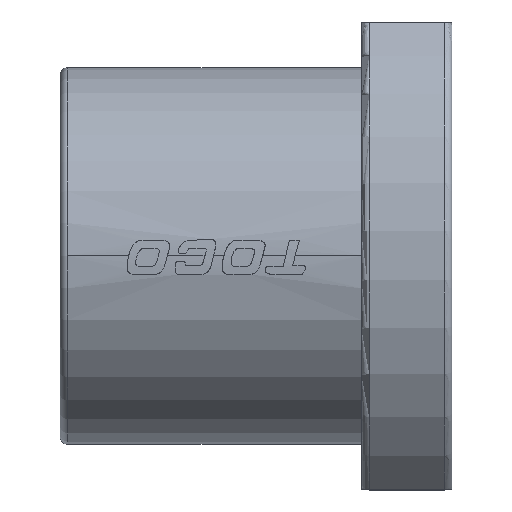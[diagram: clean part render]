
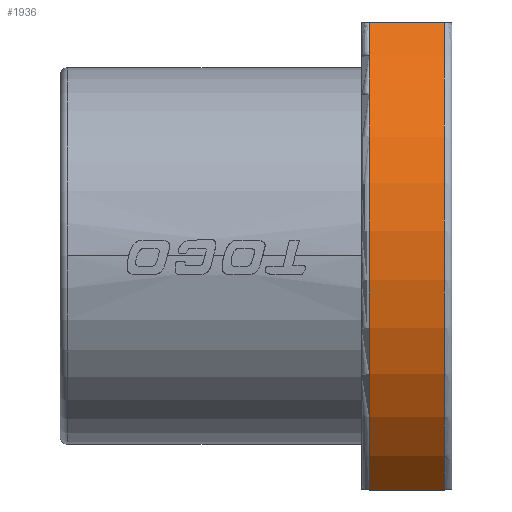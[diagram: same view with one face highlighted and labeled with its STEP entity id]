
A CAD part, top view. The second image highlights one B-rep face of the part: STEP entity #1936.
In plain terms, the highlighted cylindrical face has radius 40 mm (diameter 80 mm), a partial arc.
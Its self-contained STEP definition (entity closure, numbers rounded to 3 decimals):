
#51 = ORIENTED_EDGE ( 'NONE', *, *, #9225, .F. ) ;
#725 = CARTESIAN_POINT ( 'NONE',  ( -74., 0., 0. ) ) ;
#1712 = CARTESIAN_POINT ( 'NONE',  ( -16., 31., 25.278 ) ) ;
#1720 = DIRECTION ( 'NONE',  ( 0., 1., 0. ) ) ;
#1793 = AXIS2_PLACEMENT_3D ( 'NONE', #2526, #9039, #1720 ) ;
#1936 = ADVANCED_FACE ( 'NONE', ( #5590 ), #8851, .T. ) ;
#1962 = CIRCLE ( 'NONE', #2987, 40. ) ;
#2038 = DIRECTION ( 'NONE',  ( -1., 0., 0. ) ) ;
#2395 = CARTESIAN_POINT ( 'NONE',  ( -94., 31., 25.278 ) ) ;
#2526 = CARTESIAN_POINT ( 'NONE',  ( -16., 0., 0. ) ) ;
#2608 = VECTOR ( 'NONE', #6457, 1000. ) ;
#2842 = CARTESIAN_POINT ( 'NONE',  ( -26., 0., 0. ) ) ;
#2892 = DIRECTION ( 'NONE',  ( 0., 1., 0. ) ) ;
#2987 = AXIS2_PLACEMENT_3D ( 'NONE', #2842, #2038, #2892 ) ;
#3198 = CARTESIAN_POINT ( 'NONE',  ( -94., -31., 25.278 ) ) ;
#3527 = VERTEX_POINT ( 'NONE', #10552 ) ;
#3999 = DIRECTION ( 'NONE',  ( 0., 0., -1. ) ) ;
#4560 = VERTEX_POINT ( 'NONE', #9137 ) ;
#5590 = FACE_OUTER_BOUND ( 'NONE', #7947, .T. ) ;
#5647 = DIRECTION ( 'NONE',  ( 1., 0., 0. ) ) ;
#5674 = VECTOR ( 'NONE', #5647, 1000. ) ;
#6128 = CARTESIAN_POINT ( 'NONE',  ( -26., 31., 25.278 ) ) ;
#6252 = ORIENTED_EDGE ( 'NONE', *, *, #6492, .F. ) ;
#6457 = DIRECTION ( 'NONE',  ( -1., 0., 0. ) ) ;
#6492 = EDGE_CURVE ( 'NONE', #3527, #4560, #7258, .T. ) ;
#6494 = EDGE_CURVE ( 'NONE', #10582, #7773, #9711, .T. ) ;
#6944 = ORIENTED_EDGE ( 'NONE', *, *, #6494, .F. ) ;
#7258 = LINE ( 'NONE', #3198, #2608 ) ;
#7773 = VERTEX_POINT ( 'NONE', #1712 ) ;
#7892 = ORIENTED_EDGE ( 'NONE', *, *, #7932, .F. ) ;
#7932 = EDGE_CURVE ( 'NONE', #4560, #10582, #1962, .T. ) ;
#7947 = EDGE_LOOP ( 'NONE', ( #51, #6944, #7892, #6252 ) ) ;
#8851 = CYLINDRICAL_SURFACE ( 'NONE', #10449, 40. ) ;
#9039 = DIRECTION ( 'NONE',  ( 1., 0., 0. ) ) ;
#9137 = CARTESIAN_POINT ( 'NONE',  ( -26., -31., 25.278 ) ) ;
#9225 = EDGE_CURVE ( 'NONE', #7773, #3527, #10152, .T. ) ;
#9711 = LINE ( 'NONE', #2395, #5674 ) ;
#10152 = CIRCLE ( 'NONE', #1793, 40. ) ;
#10360 = DIRECTION ( 'NONE',  ( 1., 0., 0. ) ) ;
#10449 = AXIS2_PLACEMENT_3D ( 'NONE', #725, #10360, #3999 ) ;
#10552 = CARTESIAN_POINT ( 'NONE',  ( -16., -31., 25.278 ) ) ;
#10582 = VERTEX_POINT ( 'NONE', #6128 ) ;
